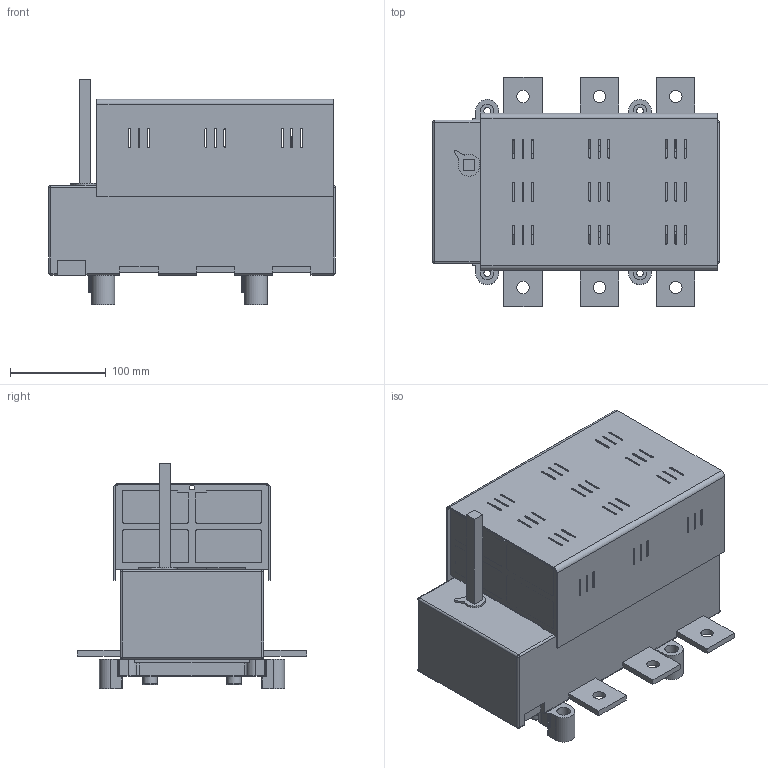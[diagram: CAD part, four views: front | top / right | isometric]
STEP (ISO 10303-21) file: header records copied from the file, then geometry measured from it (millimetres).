
FILE_DESCRIPTION(/* description */ (''),/* implementation_level */ '2;1');
FILE_NAME(/* name */ 'RAB 3 P3.stp',/* time_stamp */ '2021-08-19T14:39:38+02:00',/* author */ (''),/* organization */ (''),/* preprocessor_version */ 'ST-DEVELOPER v18.1',/* originating_system */ 'SIEMENS PLM Software NX 1965',/* authorisation */ '');
FILE_SCHEMA (('AUTOMOTIVE_DESIGN { 1 0 10303 214 3 1 1 1 }'));
Length unit declared in the file: millimetre
Products named in the file (1): RAB 3 P3_stp
Bounding box: 300 x 240 x 236 mm (x, y, z)
Volume: 4464907.6 mm3; surface area: 634557.3 mm2
Topology: 1 solids, 13 shells, 1546 faces, 4193 edges, 2685 vertices
Faces by surface type: plane 898, cylinder 538, bspline 50, torus 44, cone 8, sphere 8
Full cylindrical faces by diameter (mm): 3 x4, 4.8 x4, 5.6 x4, 6.5 x26, 7 x4, 10.5 x26, 13 x6, 13.5 x4, 14 x4, 15 x4
Entity records: 50479 total; most frequent: CARTESIAN_POINT 11327, DIRECTION 8098, ORIENTED_EDGE 8088, EDGE_CURVE 4044, LINE 2744, VECTOR 2744, AXIS2_PLACEMENT_3D 2677, VERTEX_POINT 2658
